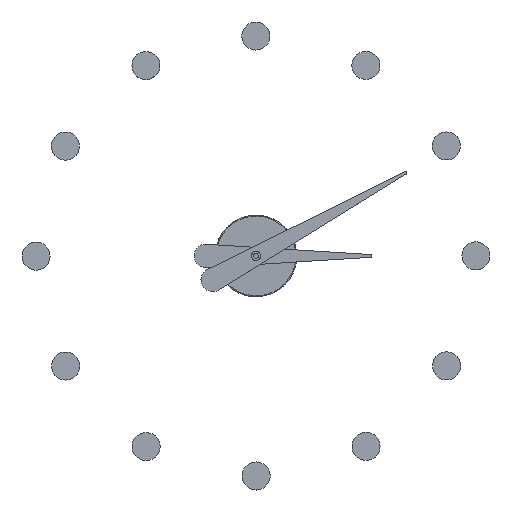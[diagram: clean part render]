
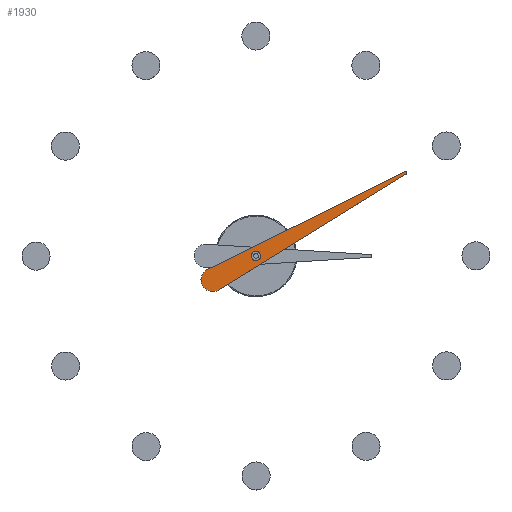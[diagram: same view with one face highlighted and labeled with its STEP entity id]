
A CAD part, top view. The second image highlights one B-rep face of the part: STEP entity #1930.
In plain terms, the highlighted planar face has unit normal (0, 0, 1).
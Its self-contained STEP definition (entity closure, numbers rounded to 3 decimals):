
#165 = ORIENTED_EDGE ( 'NONE', *, *, #4571, .F. ) ;
#486 = CIRCLE ( 'NONE', #2204, 3.2 ) ;
#496 = AXIS2_PLACEMENT_3D ( 'NONE', #1717, #5676, #5225 ) ;
#509 = VERTEX_POINT ( 'NONE', #546 ) ;
#546 = CARTESIAN_POINT ( 'NONE',  ( -235.5, -12.5, 3. ) ) ;
#746 = EDGE_CURVE ( 'NONE', #4340, #4950, #486, .T. ) ;
#782 = LINE ( 'NONE', #1733, #3422 ) ;
#814 = AXIS2_PLACEMENT_3D ( 'NONE', #1236, #1617, #3012 ) ;
#967 = DIRECTION ( 'NONE',  ( 0., 0., 1. ) ) ;
#1065 = EDGE_LOOP ( 'NONE', ( #165, #5048, #2786, #4353, #2462 ) ) ;
#1171 = DIRECTION ( 'NONE',  ( 0., 0., 1. ) ) ;
#1236 = CARTESIAN_POINT ( 'NONE',  ( -235.5, 0., 3. ) ) ;
#1292 = FACE_OUTER_BOUND ( 'NONE', #1065, .T. ) ;
#1309 = AXIS2_PLACEMENT_3D ( 'NONE', #4055, #2265, #5374 ) ;
#1318 = CIRCLE ( 'NONE', #1309, 1.5 ) ;
#1400 = EDGE_CURVE ( 'NONE', #2352, #509, #2323, .T. ) ;
#1427 = DIRECTION ( 'NONE',  ( 1., 0., 0. ) ) ;
#1562 = VECTOR ( 'NONE', #3430, 1000. ) ;
#1617 = DIRECTION ( 'NONE',  ( 0., 0., 1. ) ) ;
#1655 = CARTESIAN_POINT ( 'NONE',  ( 0.07, -1.497, 3. ) ) ;
#1717 = CARTESIAN_POINT ( 'NONE',  ( -182.5, 0., 3. ) ) ;
#1733 = CARTESIAN_POINT ( 'NONE',  ( 0.07, 1.497, 3. ) ) ;
#1930 = ADVANCED_FACE ( 'NONE', ( #4089, #1292 ), #5493, .T. ) ;
#2086 = CARTESIAN_POINT ( 'NONE',  ( -182.5, 0., 3. ) ) ;
#2089 = CARTESIAN_POINT ( 'NONE',  ( 0., -1.5, 3. ) ) ;
#2204 = AXIS2_PLACEMENT_3D ( 'NONE', #2086, #1171, #5587 ) ;
#2209 = CIRCLE ( 'NONE', #496, 3.2 ) ;
#2240 = VERTEX_POINT ( 'NONE', #2797 ) ;
#2246 = VERTEX_POINT ( 'NONE', #4503 ) ;
#2265 = DIRECTION ( 'NONE',  ( 0., 0., 1. ) ) ;
#2323 = LINE ( 'NONE', #1655, #1562 ) ;
#2352 = VERTEX_POINT ( 'NONE', #2089 ) ;
#2443 = CARTESIAN_POINT ( 'NONE',  ( 0., 1.5, 3. ) ) ;
#2462 = ORIENTED_EDGE ( 'NONE', *, *, #4613, .T. ) ;
#2570 = AXIS2_PLACEMENT_3D ( 'NONE', #2768, #967, #1427 ) ;
#2666 = VERTEX_POINT ( 'NONE', #2443 ) ;
#2669 = EDGE_CURVE ( 'NONE', #2240, #509, #5243, .T. ) ;
#2768 = CARTESIAN_POINT ( 'NONE',  ( -235.5, 0., 3. ) ) ;
#2786 = ORIENTED_EDGE ( 'NONE', *, *, #2669, .T. ) ;
#2797 = CARTESIAN_POINT ( 'NONE',  ( -248., 0., 3. ) ) ;
#2860 = DIRECTION ( 'NONE',  ( 1., 0., 0. ) ) ;
#3012 = DIRECTION ( 'NONE',  ( 1., 0., 0. ) ) ;
#3422 = VECTOR ( 'NONE', #4015, 1000. ) ;
#3430 = DIRECTION ( 'NONE',  ( -0.999, -0.047, 0. ) ) ;
#3721 = ORIENTED_EDGE ( 'NONE', *, *, #746, .F. ) ;
#3913 = CARTESIAN_POINT ( 'NONE',  ( -185.7, 0., 3. ) ) ;
#3967 = EDGE_LOOP ( 'NONE', ( #4619, #3721 ) ) ;
#3971 = AXIS2_PLACEMENT_3D ( 'NONE', #4598, #5500, #2860 ) ;
#4015 = DIRECTION ( 'NONE',  ( 0.999, -0.047, 0. ) ) ;
#4055 = CARTESIAN_POINT ( 'NONE',  ( 0., 0., 3. ) ) ;
#4089 = FACE_BOUND ( 'NONE', #3967, .T. ) ;
#4317 = CARTESIAN_POINT ( 'NONE',  ( -179.3, 0., 3. ) ) ;
#4340 = VERTEX_POINT ( 'NONE', #4317 ) ;
#4353 = ORIENTED_EDGE ( 'NONE', *, *, #1400, .F. ) ;
#4503 = CARTESIAN_POINT ( 'NONE',  ( -235.5, 12.5, 3. ) ) ;
#4571 = EDGE_CURVE ( 'NONE', #2246, #2666, #782, .T. ) ;
#4598 = CARTESIAN_POINT ( 'NONE',  ( 0., 0., 3. ) ) ;
#4613 = EDGE_CURVE ( 'NONE', #2352, #2666, #1318, .T. ) ;
#4619 = ORIENTED_EDGE ( 'NONE', *, *, #4928, .F. ) ;
#4928 = EDGE_CURVE ( 'NONE', #4950, #4340, #2209, .T. ) ;
#4950 = VERTEX_POINT ( 'NONE', #3913 ) ;
#5048 = ORIENTED_EDGE ( 'NONE', *, *, #5192, .T. ) ;
#5192 = EDGE_CURVE ( 'NONE', #2246, #2240, #5672, .T. ) ;
#5225 = DIRECTION ( 'NONE',  ( 1., 0., 0. ) ) ;
#5243 = CIRCLE ( 'NONE', #814, 12.5 ) ;
#5374 = DIRECTION ( 'NONE',  ( 1., 0., 0. ) ) ;
#5493 = PLANE ( 'NONE',  #3971 ) ;
#5500 = DIRECTION ( 'NONE',  ( 0., 0., 1. ) ) ;
#5587 = DIRECTION ( 'NONE',  ( 1., 0., 0. ) ) ;
#5672 = CIRCLE ( 'NONE', #2570, 12.5 ) ;
#5676 = DIRECTION ( 'NONE',  ( 0., 0., 1. ) ) ;
